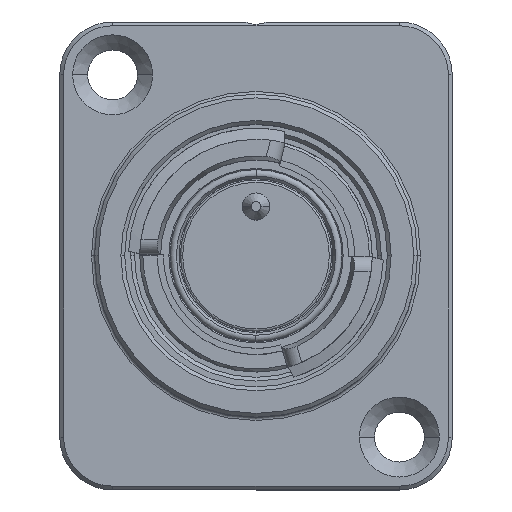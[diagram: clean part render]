
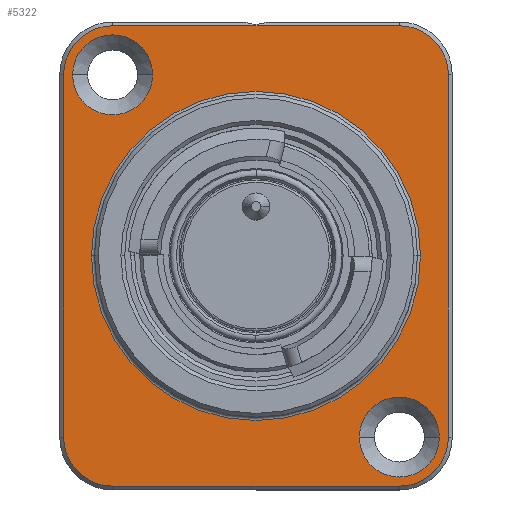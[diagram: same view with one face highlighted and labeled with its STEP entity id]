
A CAD part, top view. The second image highlights one B-rep face of the part: STEP entity #5322.
In plain terms, the highlighted planar face has unit normal (0, 0, 1).
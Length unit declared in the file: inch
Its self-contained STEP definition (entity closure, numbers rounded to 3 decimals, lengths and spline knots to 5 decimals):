
#135 = CARTESIAN_POINT ( 'NONE',  ( 0., 0., -0.66535 ) ) ;
#187 = CARTESIAN_POINT ( 'NONE',  ( 0.50197, 0.47244, -0.66535 ) ) ;
#318 = CARTESIAN_POINT ( 'NONE',  ( -0.37402, -0.60039, -0.66535 ) ) ;
#321 = DIRECTION ( 'NONE',  ( -1., 0., 0. ) ) ;
#331 = AXIS2_PLACEMENT_3D ( 'NONE', #6402, #5863, #7774 ) ;
#390 = DIRECTION ( 'NONE',  ( 0., 1., 0. ) ) ;
#417 = EDGE_LOOP ( 'NONE', ( #5612, #7770, #6555, #3841, #3703, #5815, #7288, #5042 ) ) ;
#429 = CARTESIAN_POINT ( 'NONE',  ( 0.02706, 0.60039, -0.66535 ) ) ;
#525 = EDGE_CURVE ( 'NONE', #6972, #3190, #8505, .T. ) ;
#556 = FACE_BOUND ( 'NONE', #6967, .T. ) ;
#594 = FACE_BOUND ( 'NONE', #7119, .T. ) ;
#601 = EDGE_CURVE ( 'NONE', #8643, #7837, #6577, .T. ) ;
#638 = CIRCLE ( 'NONE', #4814, 0.12795 ) ;
#844 = CIRCLE ( 'NONE', #1699, 0.42913 ) ;
#861 = DIRECTION ( 'NONE',  ( 0., 0., -1. ) ) ;
#918 = DIRECTION ( 'NONE',  ( -1., 0., 0. ) ) ;
#919 = ORIENTED_EDGE ( 'NONE', *, *, #2083, .T. ) ;
#952 = AXIS2_PLACEMENT_3D ( 'NONE', #4286, #1402, #918 ) ;
#979 = CARTESIAN_POINT ( 'NONE',  ( 0.50197, 0.47244, -0.66535 ) ) ;
#1024 = CARTESIAN_POINT ( 'NONE',  ( 0.42913, 0., -0.66535 ) ) ;
#1086 = DIRECTION ( 'NONE',  ( 0., 0., 1. ) ) ;
#1169 = EDGE_CURVE ( 'NONE', #7099, #5467, #8784, .T. ) ;
#1180 = VECTOR ( 'NONE', #3168, 39.37008 ) ;
#1402 = DIRECTION ( 'NONE',  ( 0., 0., -1. ) ) ;
#1613 = CARTESIAN_POINT ( 'NONE',  ( 0.37402, -0.47244, -0.66535 ) ) ;
#1699 = AXIS2_PLACEMENT_3D ( 'NONE', #135, #861, #321 ) ;
#1706 = EDGE_CURVE ( 'NONE', #7744, #3737, #8536, .T. ) ;
#1959 = CARTESIAN_POINT ( 'NONE',  ( 0., 0., -0.66535 ) ) ;
#2030 = PLANE ( 'NONE',  #7123 ) ;
#2083 = EDGE_CURVE ( 'NONE', #2161, #5129, #4202, .T. ) ;
#2161 = VERTEX_POINT ( 'NONE', #8700 ) ;
#2350 = CIRCLE ( 'NONE', #5799, 0.12795 ) ;
#2502 = DIRECTION ( 'NONE',  ( 0., -1., 0. ) ) ;
#2572 = FACE_OUTER_BOUND ( 'NONE', #417, .T. ) ;
#2625 = DIRECTION ( 'NONE',  ( 0., 0., -1. ) ) ;
#2841 = CIRCLE ( 'NONE', #7899, 0.12795 ) ;
#2918 = CARTESIAN_POINT ( 'NONE',  ( -0.37402, 0.60039, -0.66535 ) ) ;
#2988 = AXIS2_PLACEMENT_3D ( 'NONE', #8890, #8846, #6828 ) ;
#3001 = DIRECTION ( 'NONE',  ( -1., 0., 0. ) ) ;
#3035 = EDGE_CURVE ( 'NONE', #7837, #7099, #2350, .T. ) ;
#3168 = DIRECTION ( 'NONE',  ( -1., 0., 0. ) ) ;
#3190 = VERTEX_POINT ( 'NONE', #187 ) ;
#3674 = CIRCLE ( 'NONE', #952, 0.10433 ) ;
#3703 = ORIENTED_EDGE ( 'NONE', *, *, #8050, .T. ) ;
#3714 = AXIS2_PLACEMENT_3D ( 'NONE', #4531, #1086, #6592 ) ;
#3737 = VERTEX_POINT ( 'NONE', #7784 ) ;
#3748 = VERTEX_POINT ( 'NONE', #1024 ) ;
#3752 = ORIENTED_EDGE ( 'NONE', *, *, #5517, .T. ) ;
#3841 = ORIENTED_EDGE ( 'NONE', *, *, #8351, .T. ) ;
#3944 = VERTEX_POINT ( 'NONE', #6885 ) ;
#3988 = DIRECTION ( 'NONE',  ( -1., 0., 0. ) ) ;
#4028 = CARTESIAN_POINT ( 'NONE',  ( 0.37402, -0.60039, -0.66535 ) ) ;
#4065 = DIRECTION ( 'NONE',  ( -1., 0., 0. ) ) ;
#4100 = DIRECTION ( 'NONE',  ( -1., 0., 0. ) ) ;
#4202 = CIRCLE ( 'NONE', #8831, 0.10433 ) ;
#4286 = CARTESIAN_POINT ( 'NONE',  ( -0.37402, 0.47244, -0.66535 ) ) ;
#4401 = DIRECTION ( 'NONE',  ( 0., 0., 1. ) ) ;
#4531 = CARTESIAN_POINT ( 'NONE',  ( 0.37402, 0.47244, -0.66535 ) ) ;
#4619 = CARTESIAN_POINT ( 'NONE',  ( -0.50197, 0.47244, -0.66535 ) ) ;
#4813 = ORIENTED_EDGE ( 'NONE', *, *, #1706, .T. ) ;
#4814 = AXIS2_PLACEMENT_3D ( 'NONE', #1613, #4401, #3001 ) ;
#5042 = ORIENTED_EDGE ( 'NONE', *, *, #7953, .T. ) ;
#5129 = VERTEX_POINT ( 'NONE', #5244 ) ;
#5175 = EDGE_CURVE ( 'NONE', #3748, #3944, #7999, .T. ) ;
#5181 = CARTESIAN_POINT ( 'NONE',  ( -0.37402, 0.47244, -0.66535 ) ) ;
#5244 = CARTESIAN_POINT ( 'NONE',  ( -0.47835, 0.47244, -0.66535 ) ) ;
#5320 = DIRECTION ( 'NONE',  ( 0., 0., -1. ) ) ;
#5322 = ADVANCED_FACE ( 'NONE', ( #2572, #556, #8168, #594 ), #2030, .F. ) ;
#5418 = LINE ( 'NONE', #4028, #8177 ) ;
#5435 = CIRCLE ( 'NONE', #3714, 0.12795 ) ;
#5444 = CARTESIAN_POINT ( 'NONE',  ( -0.37402, -0.47244, -0.66535 ) ) ;
#5467 = VERTEX_POINT ( 'NONE', #7627 ) ;
#5517 = EDGE_CURVE ( 'NONE', #5129, #2161, #3674, .T. ) ;
#5612 = ORIENTED_EDGE ( 'NONE', *, *, #601, .T. ) ;
#5799 = AXIS2_PLACEMENT_3D ( 'NONE', #5181, #6946, #7950 ) ;
#5815 = ORIENTED_EDGE ( 'NONE', *, *, #5978, .T. ) ;
#5863 = DIRECTION ( 'NONE',  ( 0., 0., -1. ) ) ;
#5921 = CARTESIAN_POINT ( 'NONE',  ( -0.50197, -0.47244, -0.66535 ) ) ;
#5978 = EDGE_CURVE ( 'NONE', #7602, #6972, #638, .T. ) ;
#6402 = CARTESIAN_POINT ( 'NONE',  ( 0.37402, -0.47244, -0.66535 ) ) ;
#6555 = ORIENTED_EDGE ( 'NONE', *, *, #1169, .T. ) ;
#6577 = LINE ( 'NONE', #429, #1180 ) ;
#6592 = DIRECTION ( 'NONE',  ( -1., 0., 0. ) ) ;
#6599 = ORIENTED_EDGE ( 'NONE', *, *, #6943, .T. ) ;
#6633 = CARTESIAN_POINT ( 'NONE',  ( 0.37402, 0.60039, -0.66535 ) ) ;
#6658 = CARTESIAN_POINT ( 'NONE',  ( 0., 0.825, -0.66535 ) ) ;
#6706 = DIRECTION ( 'NONE',  ( 0., 0., -1. ) ) ;
#6828 = DIRECTION ( 'NONE',  ( -1., 0., 0. ) ) ;
#6852 = ORIENTED_EDGE ( 'NONE', *, *, #7555, .T. ) ;
#6853 = CIRCLE ( 'NONE', #2988, 0.10433 ) ;
#6885 = CARTESIAN_POINT ( 'NONE',  ( -0.42913, 0., -0.66535 ) ) ;
#6943 = EDGE_CURVE ( 'NONE', #3944, #3748, #844, .T. ) ;
#6946 = DIRECTION ( 'NONE',  ( 0., 0., 1. ) ) ;
#6967 = EDGE_LOOP ( 'NONE', ( #6599, #7121 ) ) ;
#6972 = VERTEX_POINT ( 'NONE', #7802 ) ;
#7052 = CARTESIAN_POINT ( 'NONE',  ( 0.26969, -0.47244, -0.66535 ) ) ;
#7066 = VECTOR ( 'NONE', #2502, 39.37008 ) ;
#7099 = VERTEX_POINT ( 'NONE', #4619 ) ;
#7119 = EDGE_LOOP ( 'NONE', ( #919, #3752 ) ) ;
#7121 = ORIENTED_EDGE ( 'NONE', *, *, #5175, .T. ) ;
#7123 = AXIS2_PLACEMENT_3D ( 'NONE', #6658, #5320, #4065 ) ;
#7288 = ORIENTED_EDGE ( 'NONE', *, *, #525, .T. ) ;
#7400 = CARTESIAN_POINT ( 'NONE',  ( -0.37402, 0.47244, -0.66535 ) ) ;
#7555 = EDGE_CURVE ( 'NONE', #3737, #7744, #6853, .T. ) ;
#7567 = CARTESIAN_POINT ( 'NONE',  ( 0.37402, -0.60039, -0.66535 ) ) ;
#7602 = VERTEX_POINT ( 'NONE', #7567 ) ;
#7627 = CARTESIAN_POINT ( 'NONE',  ( -0.50197, -0.47244, -0.66535 ) ) ;
#7744 = VERTEX_POINT ( 'NONE', #7052 ) ;
#7770 = ORIENTED_EDGE ( 'NONE', *, *, #3035, .T. ) ;
#7774 = DIRECTION ( 'NONE',  ( -1., 0., 0. ) ) ;
#7784 = CARTESIAN_POINT ( 'NONE',  ( 0.47835, -0.47244, -0.66535 ) ) ;
#7802 = CARTESIAN_POINT ( 'NONE',  ( 0.50197, -0.47244, -0.66535 ) ) ;
#7804 = VECTOR ( 'NONE', #390, 39.37008 ) ;
#7837 = VERTEX_POINT ( 'NONE', #2918 ) ;
#7899 = AXIS2_PLACEMENT_3D ( 'NONE', #5444, #8203, #4100 ) ;
#7933 = VERTEX_POINT ( 'NONE', #318 ) ;
#7950 = DIRECTION ( 'NONE',  ( -1., 0., 0. ) ) ;
#7953 = EDGE_CURVE ( 'NONE', #3190, #8643, #5435, .T. ) ;
#7999 = CIRCLE ( 'NONE', #8591, 0.42913 ) ;
#8049 = DIRECTION ( 'NONE',  ( 1., 0., 0. ) ) ;
#8050 = EDGE_CURVE ( 'NONE', #7933, #7602, #5418, .T. ) ;
#8088 = DIRECTION ( 'NONE',  ( -1., 0., 0. ) ) ;
#8168 = FACE_BOUND ( 'NONE', #8590, .T. ) ;
#8177 = VECTOR ( 'NONE', #8049, 39.37008 ) ;
#8203 = DIRECTION ( 'NONE',  ( 0., 0., 1. ) ) ;
#8351 = EDGE_CURVE ( 'NONE', #5467, #7933, #2841, .T. ) ;
#8505 = LINE ( 'NONE', #979, #7804 ) ;
#8536 = CIRCLE ( 'NONE', #331, 0.10433 ) ;
#8590 = EDGE_LOOP ( 'NONE', ( #6852, #4813 ) ) ;
#8591 = AXIS2_PLACEMENT_3D ( 'NONE', #1959, #2625, #3988 ) ;
#8643 = VERTEX_POINT ( 'NONE', #6633 ) ;
#8700 = CARTESIAN_POINT ( 'NONE',  ( -0.26969, 0.47244, -0.66535 ) ) ;
#8784 = LINE ( 'NONE', #5921, #7066 ) ;
#8831 = AXIS2_PLACEMENT_3D ( 'NONE', #7400, #6706, #8088 ) ;
#8846 = DIRECTION ( 'NONE',  ( 0., 0., -1. ) ) ;
#8890 = CARTESIAN_POINT ( 'NONE',  ( 0.37402, -0.47244, -0.66535 ) ) ;
